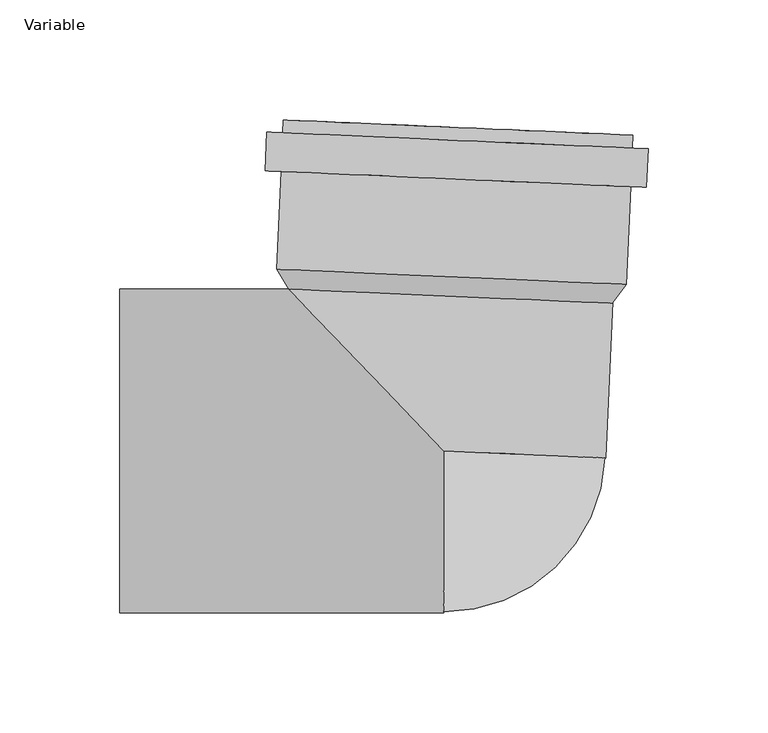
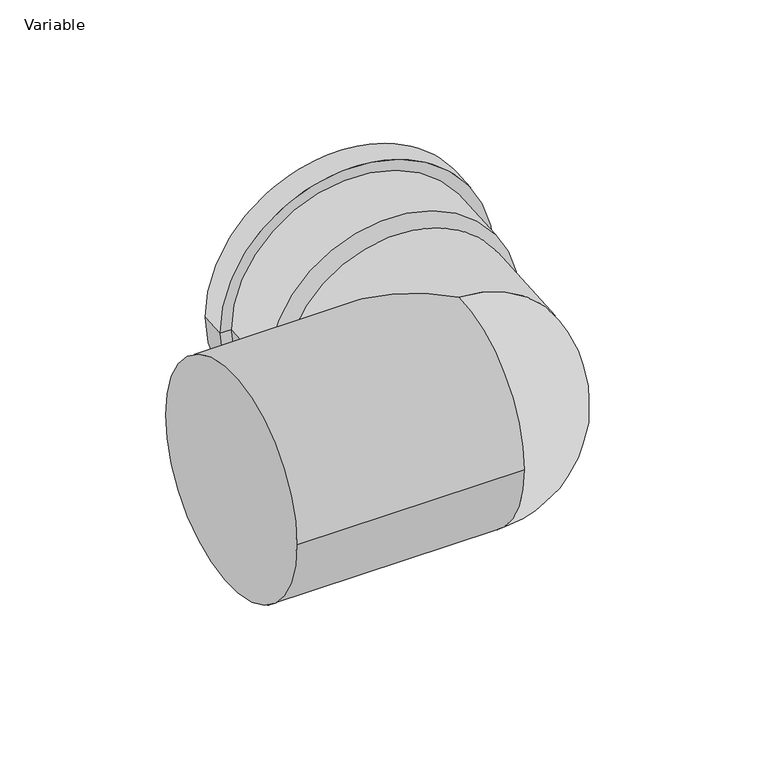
"""IFC4 building model written with IfcOpenShell, lengths in millimetres: pipe fitting geometry, AliaxisFR_Friaphon_ElbowMF_FR : Variable."""

import ifcopenshell
import ifcopenshell.guid

model = None  # the IFC model being written
_history = None  # IfcOwnerHistory: only IFC2X3 demands one
_inside = {}  # id of a spatial element -> (the spatial element, [elements in it])
_under = {}  # id of a project, library or spatial element -> (it, [spatial elements below it])
_declared = {}  # id of a project -> (the project, [libraries it declares])
_typed = {}  # id of a type object -> (the type object, [elements of that type])
_made_of = {}  # id of a material, layer set ... -> (it, [elements and type objects made of it])


def new_model(schema):
    """Start an empty IFC model of exactly this schema.

    Asked for "IFC4X3", IfcOpenShell would pick the latest addendum, in which some entities
    have other attributes; the version numbers below select the first issue.
    IFC2X3 requires an IfcOwnerHistory on every rooted entity: one is made here for all.
    """
    global model, _history
    if schema == "IFC4X3":
        model = ifcopenshell.file(schema_version=(4, 3, 0, 0))
    else:
        model = ifcopenshell.file(schema=schema)
    _inside.clear()
    _under.clear()
    _declared.clear()
    _typed.clear()
    _made_of.clear()
    _history = None
    if model.schema == "IFC2X3":
        org = make("IfcOrganization", Name="unknown")
        user = make(
            "IfcPersonAndOrganization",
            ThePerson=make("IfcPerson", FamilyName="unknown"),
            TheOrganization=org,
        )
        app = make(
            "IfcApplication",
            ApplicationDeveloper=org,
            Version="unknown",
            ApplicationFullName="unknown",
            ApplicationIdentifier="unknown",
        )
        _history = make(
            "IfcOwnerHistory",
            OwningUser=user,
            OwningApplication=app,
            ChangeAction="ADDED",
            CreationDate=0,
        )
    return model


def make(cls, **values):
    """One entity of the class cls with the attributes given. An attribute that is None is left unset."""
    return model.create_entity(
        cls, **{name: value for name, value in values.items() if value is not None}
    )


def rooted(cls, **values):
    """An entity with a GlobalId (a new one), such as an element, a storey or a relation."""
    return make(cls, GlobalId=ifcopenshell.guid.new(), OwnerHistory=_history, **values)


def si_unit(unit_type, name, prefix=None):
    """IfcSIUnit, for example si_unit("LENGTHUNIT", "METRE", prefix="MILLI")."""
    return make("IfcSIUnit", UnitType=unit_type, Prefix=prefix, Name=name)


def assignment(units):
    """IfcUnitAssignment: the units of a project."""
    return None if units is None else make("IfcUnitAssignment", Units=units)


def point(xyz):
    """IfcCartesianPoint."""
    return None if xyz is None else make("IfcCartesianPoint", Coordinates=xyz)


def direction(xyz):
    """IfcDirection."""
    return None if xyz is None else make("IfcDirection", DirectionRatios=xyz)


def frame(location, z_axis=None, x_axis=None):
    """IfcAxis2Placement3D, a coordinate frame: its origin and axes. An axis left out is left unset."""
    return make(
        "IfcAxis2Placement3D",
        Location=point(location),
        Axis=direction(z_axis),
        RefDirection=direction(x_axis),
    )


def origin():
    """The frame at (0, 0, 0) with its axes left unset."""
    return frame((0.0, 0.0, 0.0))


def place(relative_to, where):
    """IfcLocalPlacement: puts the frame where relative to a parent placement (None: the world)."""
    return make(
        "IfcLocalPlacement", PlacementRelTo=relative_to, RelativePlacement=where
    )


def context(
    kind, dimensions, precision=None, world=None, true_north=None, identifier=None
):
    """IfcGeometricRepresentationContext, for example the 3D "Model" context."""
    return make(
        "IfcGeometricRepresentationContext",
        ContextIdentifier=identifier,
        ContextType=kind,
        CoordinateSpaceDimension=dimensions,
        Precision=precision,
        WorldCoordinateSystem=world,
        TrueNorth=true_north,
    )


def project(units=None, contexts=None):
    """IfcProject with its units and contexts."""
    return rooted(
        "IfcProject",
        Name="project",
        RepresentationContexts=contexts,
        UnitsInContext=assignment(units),
    )


def spatial(cls, under=None, at=None, **own):
    """A site, building, storey or space (cls), placed at a placement, below another one or the project."""
    s = rooted(cls, ObjectPlacement=at, **own)
    if under is not None:
        _under.setdefault(under.id(), (under, []))[1].append(s)
    return s


def polyline(points):
    """IfcPolyline through the points."""
    return make("IfcPolyline", Points=[point(p) for p in points])


def circle_curve(where, radius):
    """IfcCircle in the frame where."""
    return make("IfcCircle", Position=where, Radius=radius)


def ellipse_curve(where, semi_axis1, semi_axis2):
    """IfcEllipse in the frame where."""
    return make(
        "IfcEllipse", Position=where, SemiAxis1=semi_axis1, SemiAxis2=semi_axis2
    )


def trimmed(basis, trim1, trim2, sense, master):
    """IfcTrimmedCurve: the piece of a basis curve between two trims."""
    return make(
        "IfcTrimmedCurve",
        BasisCurve=basis,
        Trim1=trim1,
        Trim2=trim2,
        SenseAgreement=sense,
        MasterRepresentation=master,
    )


def shape(context_of_items, identifier, shape_type, items):
    """IfcShapeRepresentation: the items that make up one representation, for example the "Body"."""
    return make(
        "IfcShapeRepresentation",
        ContextOfItems=context_of_items,
        RepresentationIdentifier=identifier,
        RepresentationType=shape_type,
        Items=items,
    )


def source(mapping_origin, context_of_items, identifier, shape_type, items):
    """IfcRepresentationMap: a shape defined once, which mapped items show again and again."""
    return make(
        "IfcRepresentationMap",
        MappingOrigin=mapping_origin,
        MappedRepresentation=shape(context_of_items, identifier, shape_type, items),
    )


def transform(
    local_origin,
    x_axis=None,
    y_axis=None,
    z_axis=None,
    scale=None,
    scale2=None,
    scale3=None,
    uniform=True,
):
    """IfcCartesianTransformationOperator3D, or its non-uniform kind. x_axis, y_axis, z_axis: its Axis1, 2, 3."""
    if uniform:
        return make(
            "IfcCartesianTransformationOperator3D",
            Axis1=direction(x_axis),
            Axis2=direction(y_axis),
            LocalOrigin=point(local_origin),
            Scale=scale,
            Axis3=direction(z_axis),
        )
    return make(
        "IfcCartesianTransformationOperator3DnonUniform",
        Axis1=direction(x_axis),
        Axis2=direction(y_axis),
        LocalOrigin=point(local_origin),
        Scale=scale,
        Axis3=direction(z_axis),
        Scale2=scale2,
        Scale3=scale3,
    )


def mapped(mapping_source, mapping_target):
    """IfcMappedItem: shows the shape of a source again, moved by a transform."""
    return make(
        "IfcMappedItem", MappingSource=mapping_source, MappingTarget=mapping_target
    )


def made_of(thing, what):
    """Note that an element or type object is made of a material, layer set ...; save() writes the relation."""
    if what is not None:
        _made_of.setdefault(what.id(), (what, []))[1].append(thing)
    return thing


def element(
    cls,
    number,
    at=None,
    inside=None,
    cuts=None,
    type_object=None,
    material=None,
    context=None,
    identifier="Body",
    shape_type=None,
    held_by="IfcProductDefinitionShape",
    body=None,
    shapes=None,
    **own,
):
    """One element of the class cls, such as IfcWall. Its Tag is "e" and its number.

    at: its placement. inside: the storey or other place that contains it. cuts: it is an
    opening in that element (IfcRelVoidsElement). A single representation is given by context,
    identifier, shape_type and body (its items); several are given by shapes. held_by: the class
    of the entity that holds the representations. save() writes the other relations.
    """
    e = rooted(cls, Tag="e%d" % number, ObjectPlacement=at, **own)
    if body is not None:
        shapes = [shape(context, identifier, shape_type, body)]
    if shapes is not None:
        e.Representation = make(held_by, Representations=shapes)
    if inside is not None:
        _inside.setdefault(inside.id(), (inside, []))[1].append(e)
    if cuts is not None:
        rooted(
            "IfcRelVoidsElement", RelatingBuildingElement=cuts, RelatedOpeningElement=e
        )
    if type_object is not None:
        _typed.setdefault(type_object.id(), (type_object, []))[1].append(e)
    return made_of(e, material)


def aggregate(whole, parts):
    """IfcRelAggregates: a whole, such as a stair, and the parts it consists of."""
    return rooted("IfcRelAggregates", RelatingObject=whole, RelatedObjects=parts)


def save(model, path):
    """Write the relations noted so far, then the file.

    IfcRelAggregates (storeys below a building ...), IfcRelContainedInSpatialStructure (elements
    in a storey), IfcRelDefinesByType, IfcRelAssociatesMaterial and IfcRelDeclares: one each for
    every whole, place, type object, material and project.
    """
    for whole, parts in _under.values():
        aggregate(whole, parts)
    for where, things in _inside.values():
        rooted(
            "IfcRelContainedInSpatialStructure",
            RelatedElements=things,
            RelatingStructure=where,
        )
    for kind, things in _typed.values():
        rooted("IfcRelDefinesByType", RelatedObjects=things, RelatingType=kind)
    for what, things in _made_of.values():
        rooted("IfcRelAssociatesMaterial", RelatedObjects=things, RelatingMaterial=what)
    for by, libraries in _declared.values():
        rooted("IfcRelDeclares", RelatingContext=by, RelatedDefinitions=libraries)
    model.write(path)


def plane_surface(at):
    """IfcPlane: the flat surface through the origin of the frame at, square to its z axis."""
    return make("IfcPlane", Position=at)


def cylinder_surface(at, radius):
    """IfcCylindricalSurface: all points at the distance radius from the z axis of the frame at."""
    return make("IfcCylindricalSurface", Position=at, Radius=radius)


def revolved_surface(curve, axis_point, axis_direction):
    """IfcSurfaceOfRevolution: the curve turned about the line through axis_point along axis_direction."""
    return make(
        "IfcSurfaceOfRevolution",
        SweptCurve=make("IfcArbitraryOpenProfileDef", ProfileType="CURVE", Curve=curve),
        AxisPosition=make("IfcAxis1Placement", Location=point(axis_point), Axis=direction(axis_direction)),
    )


def advanced_brep(points, edges, surfaces, faces):
    """IfcAdvancedBrep: a solid bounded by faces that lie on surfaces and meet in shared edges.

    An edge is (start, end): straight between two places in points (the first is 0);
    or (start, end, curve); or (start, end, curve, False) where it runs against its curve.
    A face is (place in surfaces, loops), or (place, loops, False) where it looks against
    its surface's normal. A loop lists edges by number (the first is 1), with a minus sign
    where the edge is run from its end to its start. The first loop is the outer one.
    """
    corners = [point(p) for p in points]
    vertices = [make("IfcVertexPoint", VertexGeometry=c) for c in corners]
    made = []
    for start, end, *more in edges:
        made.append(
            make(
                "IfcEdgeCurve",
                EdgeStart=vertices[start],
                EdgeEnd=vertices[end],
                EdgeGeometry=more[0] if more else make("IfcPolyline", Points=[corners[start], corners[end]]),
                SameSense=more[1] if len(more) > 1 else True,
            )
        )
    hull = []
    for where, loops, *sense in faces:
        bounds = []
        for j, loop in enumerate(loops):
            ring = [make("IfcOrientedEdge", EdgeElement=made[abs(k) - 1], Orientation=k > 0) for k in loop]
            bounds.append(
                make(
                    "IfcFaceOuterBound" if j == 0 else "IfcFaceBound",
                    Bound=make("IfcEdgeLoop", EdgeList=ring),
                    Orientation=True,
                )
            )
        hull.append(make("IfcAdvancedFace", Bounds=bounds, FaceSurface=surfaces[where], SameSense=sense[0] if sense else True))
    return make("IfcAdvancedBrep", Outer=make("IfcClosedShell", CfsFaces=hull))


def variable_cf479196(model_context):
    return source(origin(), model_context, "Body", "AdvancedBrep", [
        advanced_brep(
        [(78.7192326, 131.6916566, 0.0), (-66.9419981, 138.0513633, 0.0), (-61.5471377, 137.8158186, 0.0), (73.3243723, 131.9272013, 0.0), (84.3751341, 109.9242319, 0.0), (-74.4735331, 116.8597144, 0.0), (-73.771261, 132.9443908, 0.0), (85.0774062, 126.0089082, 0.0), (77.7814158, 110.2121198, 0.0), (-67.8798149, 116.5718265, 0.0), (76.0017448, 69.4509524, 0.0), (-69.6594859, 75.810659, 0.0), (-64.6179425, 67.4828238, 0.0), (70.2535674, 61.5942065, 0.0), (78.483688, 126.2967962, 0.0), (-67.1775428, 132.6565029, 0.0)],
        [
            (0, 1, circle_curve(frame((5.8886173, 134.8715099, 0.0), z_axis=(0.0436193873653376, 0.9990482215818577, 0.0), x_axis=(-0.9990482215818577, 0.0436193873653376, 0.0)), 72.9)),
            (1, 2),
            (2, 3, circle_curve(frame((5.8886173, 134.8715099, 0.0), z_axis=(-0.0436193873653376, -0.9990482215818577, 0.0), x_axis=(-0.9990482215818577, 0.0436193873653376, 0.0)), 67.5)),
            (3, 0),
            (1, 0, circle_curve(frame((5.8886173, 134.8715099, 0.0), z_axis=(0.0436193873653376, 0.9990482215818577, 0.0), x_axis=(-0.9990482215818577, 0.0436193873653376, 0.0)), 72.9)),
            (3, 2, circle_curve(frame((5.8886173, 134.8715099, 0.0), z_axis=(-0.0436193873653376, -0.9990482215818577, 0.0), x_axis=(-0.9990482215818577, 0.0436193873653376, 0.0)), 67.5)),
            (4, 5, circle_curve(frame((4.9508005, 113.3919731, 0.0), z_axis=(0.0436193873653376, 0.9990482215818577, 0.0), x_axis=(-0.9990482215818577, 0.0436193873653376, 0.0)), 79.5)),
            (5, 6),
            (6, 7, circle_curve(frame((5.6530726, 129.4766495, 0.0), z_axis=(-0.0436193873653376, -0.9990482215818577, 0.0), x_axis=(-0.9990482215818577, 0.0436193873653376, 0.0)), 79.5)),
            (7, 4),
            (5, 4, circle_curve(frame((4.9508005, 113.3919731, 0.0), z_axis=(0.0436193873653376, 0.9990482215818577, 0.0), x_axis=(-0.9990482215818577, 0.0436193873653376, 0.0)), 79.5)),
            (7, 6, circle_curve(frame((5.6530726, 129.4766495, 0.0), z_axis=(-0.0436193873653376, -0.9990482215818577, 0.0), x_axis=(-0.9990482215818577, 0.0436193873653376, 0.0)), 79.5)),
            (8, 9, circle_curve(frame((4.9508005, 113.3919731, 0.0), z_axis=(0.0436193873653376, 0.9990482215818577, 0.0), x_axis=(-0.9990482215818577, 0.0436193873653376, 0.0)), 72.9)),
            (9, 5),
            (4, 8),
            (9, 8, circle_curve(frame((4.9508005, 113.3919731, 0.0), z_axis=(0.0436193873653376, 0.9990482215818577, 0.0), x_axis=(-0.9990482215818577, 0.0436193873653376, 0.0)), 72.9)),
            (10, 11, circle_curve(frame((3.1711295, 72.6308057, 0.0), z_axis=(0.0436193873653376, 0.9990482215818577, 0.0), x_axis=(-0.9990482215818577, 0.0436193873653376, 0.0)), 72.9)),
            (11, 9),
            (8, 10),
            (11, 10, circle_curve(frame((3.1711295, 72.6308057, 0.0), z_axis=(0.0436193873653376, 0.9990482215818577, 0.0), x_axis=(-0.9990482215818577, 0.0436193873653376, 0.0)), 72.9)),
            (2, 12),
            (12, 13, circle_curve(frame((2.8178124, 64.5385151, 0.0), z_axis=(-0.0436193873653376, -0.9990482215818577, 0.0), x_axis=(-0.9990482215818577, 0.0436193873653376, 0.0)), 67.5)),
            (13, 3),
            (13, 12, circle_curve(frame((2.8178124, 64.5385151, 0.0), z_axis=(-0.0436193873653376, -0.9990482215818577, 0.0), x_axis=(-0.9990482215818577, 0.0436193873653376, 0.0)), 67.5)),
            (12, 11),
            (10, 13),
            (14, 15, circle_curve(frame((5.6530726, 129.4766495, 0.0), z_axis=(0.0436193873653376, 0.9990482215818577, 0.0), x_axis=(-0.9990482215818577, 0.0436193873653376, 0.0)), 72.9)),
            (15, 1),
            (0, 14),
            (15, 14, circle_curve(frame((5.6530726, 129.4766495, 0.0), z_axis=(0.0436193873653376, 0.9990482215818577, 0.0), x_axis=(-0.9990482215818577, 0.0436193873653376, 0.0)), 72.9)),
            (6, 15),
            (14, 7),
        ],
        [
            plane_surface(frame((5.8886173, 134.8715099, 0.0), z_axis=(0.0436193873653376, 0.9990482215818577, 0.0), x_axis=(-0.9990482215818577, 0.0436193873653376, 0.0))),
            cylinder_surface(frame((2.8178124, 64.5385151, 0.0), z_axis=(-0.0436193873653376, -0.9990482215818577, 0.0), x_axis=(-0.9990482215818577, 0.0436193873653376, 0.0)), 79.5),
            plane_surface(frame((4.9508005, 113.3919731, 0.0), z_axis=(-0.0436193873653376, -0.9990482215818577, 0.0), x_axis=(-0.9990482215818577, 0.0436193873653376, 0.0))),
            cylinder_surface(frame((2.8178124, 64.5385151, 0.0), z_axis=(-0.0436193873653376, -0.9990482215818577, 0.0), x_axis=(-0.9990482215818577, 0.0436193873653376, 0.0)), 72.9),
            revolved_surface(polyline([(-64.6179425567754, 67.48282374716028, 0.0), (-61.54713768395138, 137.8158185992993, 0.0)]), (2.8178124, 64.5385151, 0.0), (-0.0436193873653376, -0.9990482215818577, 0.0)),
            revolved_surface(polyline([(-69.6594859, 75.810659, 0.0), (-64.6179425, 67.4828238, 0.0)]), (2.8178124, 64.5385151, 0.0), (-0.0436193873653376, -0.9990482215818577, 0.0)),
            plane_surface(frame((5.6530726, 129.4766495, 0.0), z_axis=(0.0436193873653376, 0.9990482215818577, 0.0), x_axis=(-0.9990482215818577, 0.0436193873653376, 0.0))),
        ],
        [
            (0, [[1, 2, 3, 4]]),
            (0, [[5, -4, 6, -2]]),
            (1, [[7, 8, 9, 10]]),
            (1, [[11, -10, 12, -8]]),
            (2, [[13, 14, -7, 15]]),
            (2, [[16, -15, -11, -14]]),
            (3, [[17, 18, -13, 19]]),
            (3, [[20, -19, -16, -18]]),
            (4, [[-3, 21, 22, 23]]),
            (4, [[-6, -23, 24, -21]]),
            (5, [[-22, 25, -17, 26]]),
            (5, [[-24, -26, -20, -25]]),
            (3, [[27, 28, -1, 29]]),
            (3, [[30, -29, -5, -28]]),
            (6, [[-9, 31, -27, 32]]),
            (6, [[-12, -32, -30, -31]]),
        ],
    ),
        advanced_brep(
        [(-64.3823978, 72.8776842, 0.0), (3.0533571, 69.9333755, 67.5), (70.4891121, 66.9890669, 0.0), (3.0533571, 69.9333755, -67.5), (67.435755, -2.9443086, 0.0), (-64.6171926, 67.5, 0.0), (0.0, 0.0, 67.5), (0.0, 0.0, -67.5), (-135.0, -67.5, 0.0), (-135.0, 67.5, 0.0), (0.0, -67.5, 0.0)],
        [
            (0, 1, circle_curve(frame((3.0533571, 69.9333755, 0.0), z_axis=(0.04361938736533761, 0.9990482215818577, 0.0), x_axis=(-0.9990482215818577, 0.04361938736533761, 0.0)), 67.5)),
            (1, 2, circle_curve(frame((3.0533571, 69.9333755, 0.0), z_axis=(0.04361938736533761, 0.9990482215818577, 0.0), x_axis=(-0.9990482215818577, 0.04361938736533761, 0.0)), 67.5)),
            (2, 3, circle_curve(frame((3.0533571, 69.9333755, 0.0), z_axis=(0.04361938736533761, 0.9990482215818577, 0.0), x_axis=(-0.9990482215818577, 0.04361938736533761, 0.0)), 67.5)),
            (3, 0, circle_curve(frame((3.0533571, 69.9333755, 0.0), z_axis=(0.04361938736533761, 0.9990482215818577, 0.0), x_axis=(-0.9990482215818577, 0.04361938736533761, 0.0)), 67.5)),
            (4, 2),
            (0, 5),
            (5, 6, ellipse_curve(frame((0.0, 0.0, 0.0), z_axis=(0.7223639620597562, 0.6915130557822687, 0.0), x_axis=(0.6915130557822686, -0.7223639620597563, 0.0)), 93.4431998, 67.5)),
            (6, 4, circle_curve(frame((0.0, 0.0, 0.0), z_axis=(0.04361938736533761, 0.9990482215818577, 0.0), x_axis=(-0.9990482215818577, 0.04361938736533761, 0.0)), 67.5)),
            (4, 7, circle_curve(frame((0.0, 0.0, 0.0), z_axis=(0.04361938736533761, 0.9990482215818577, 0.0), x_axis=(-0.9990482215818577, 0.04361938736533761, 0.0)), 67.5)),
            (7, 5, ellipse_curve(frame((0.0, 0.0, 0.0), z_axis=(0.7223639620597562, 0.6915130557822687, 0.0), x_axis=(0.6915130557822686, -0.7223639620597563, 0.0)), 93.4431998, 67.5)),
            (8, 9, circle_curve(frame((-135.0, 0.0, 0.0), z_axis=(-1.0, 0.0, 0.0), x_axis=(0.0, 1.0, 0.0)), 67.5)),
            (9, 8, circle_curve(frame((-135.0, 0.0, 0.0), z_axis=(-1.0, 0.0, 0.0), x_axis=(0.0, 1.0, 0.0)), 67.5)),
            (8, 10),
            (10, 6, circle_curve(frame((0.0, 0.0, 0.0), z_axis=(-1.0, 0.0, 0.0), x_axis=(0.0, 1.0, 0.0)), 67.5)),
            (5, 9),
            (7, 10, circle_curve(frame((0.0, 0.0, 0.0), z_axis=(-1.0, 0.0, 0.0), x_axis=(0.0, 1.0, 0.0)), 67.5)),
        ],
        [
            plane_surface(frame((3.0533571, 69.9333755, 0.0), z_axis=(0.04361938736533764, 0.9990482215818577, 0.0), x_axis=(0.0, 0.0, 1.0))),
            cylinder_surface(frame((0.0, 0.0, 0.0), z_axis=(-0.04361938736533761, -0.9990482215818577, 0.0), x_axis=(-0.9990482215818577, 0.04361938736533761, 0.0)), 67.5),
            plane_surface(frame((-135.0, 0.0, 0.0), z_axis=(-1.0, 0.0, 0.0), x_axis=(0.0, 0.0, 1.0))),
            cylinder_surface(frame((-135.0, 0.0, 0.0), z_axis=(-1.0, 0.0, 0.0), x_axis=(0.0, 1.0, 0.0)), 67.5),
            revolved_surface(trimmed(ellipse_curve(frame((0.0, 0.0, 0.0), z_axis=(0.0436193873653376, 0.9990482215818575, 0.0), x_axis=(-0.9990482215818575, 0.0436193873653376, 0.0)), 67.5, 67.5), [point((0.0, 0.0, 67.5))], [point((0.0, 0.0, -67.5))], True, "CARTESIAN"), (0.0, 0.0, 67.5), (0.0, 0.0, -1.0)),
        ],
        [
            (0, [[1, 2, 3, 4]]),
            (1, [[5, -2, -1, 6, 7, 8]]),
            (1, [[-5, 9, 10, -6, -4, -3]]),
            (2, [[11, 12]]),
            (3, [[-11, 13, 14, -7, 15]]),
            (3, [[-12, -15, -10, 16, -13]]),
            (4, [[-14, -16, -9, -8]]),
        ],
    ),
    ])


if __name__ == "__main__":
    model = new_model("IFC4")
    model_context = context("Model", 3, world=origin())
    ifc_project = project(units=[si_unit("LENGTHUNIT", "METRE", prefix="MILLI")], contexts=[model_context])
    site = spatial("IfcSite", under=ifc_project)
    building = spatial("IfcBuilding", under=site)
    placement = place(None, origin())
    variable_shape = variable_cf479196(model_context)
    element("IfcPipeFitting", 1, ObjectType="AliaxisFR_Friaphon_ElbowMF_FR : Variable", at=placement, inside=building, context=model_context, shape_type="MappedRepresentation", body=[
        mapped(variable_shape, transform((0.0, 0.0, 0.0), x_axis=(1.0, 0.0, 0.0), y_axis=(0.0, 1.0, 0.0), z_axis=(0.0, 0.0, 1.0))),
    ])
    save(model, "model.ifc")
